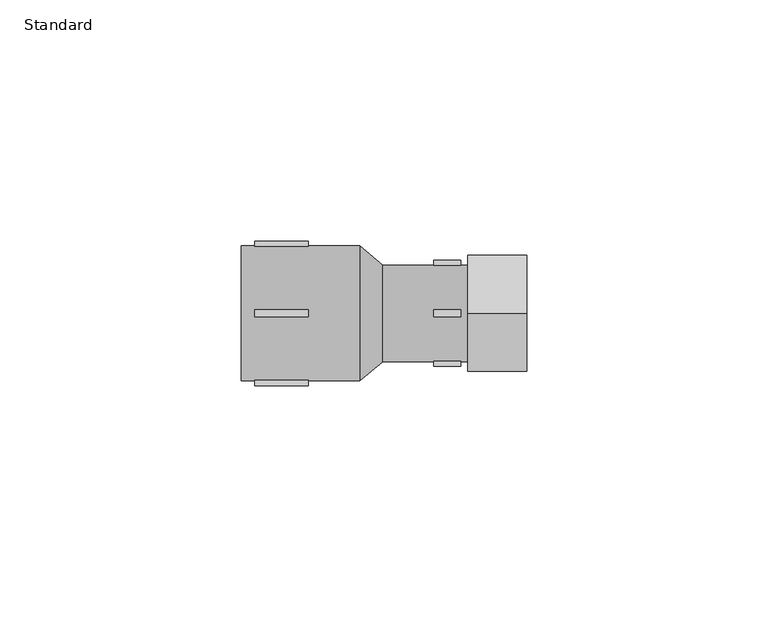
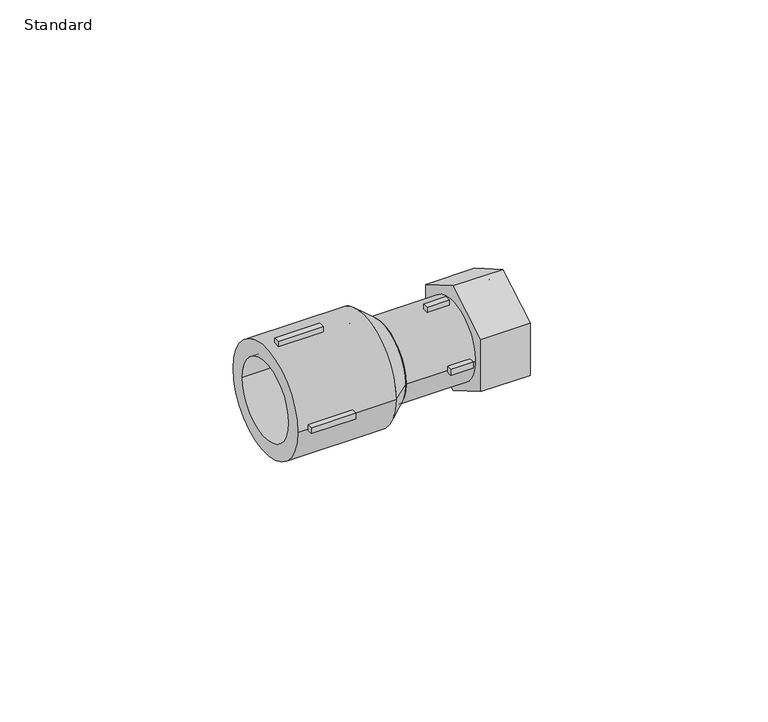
"""IFC4 building model written with IfcOpenShell, lengths in millimetres: pipe fitting geometry, EGB_VASEN_ PPR_Enlace tuerca loca : Standard."""

from ifc_helpers import new_model, si_unit, point, frame, origin, origin_2d, place, context, project, spatial, polyline, circle_curve, trimmed, segment, composite_curve, outline, extrude, source, transform, mapped, element, save
from ifc_brep_helpers import plane_surface, revolved_surface, advanced_brep


def standard_411258c7(model_context):
    return source(origin(), model_context, "Body", "SolidModel", [
        extrude(outline(polyline([(0.0, 13.8564065), (12.0, 6.9282032), (12.0, -6.9282032), (0.0, -13.8564065), (-12.0, -6.9282032), (-12.0, 6.9282032), (0.0, 13.8564065)]), holes=[composite_curve([segment(trimmed(circle_curve(origin_2d(), 9.525), [point((9.525, 0.0))], [point((-9.525, 0.0))], True, "CARTESIAN"), True, "CONTINUOUS"), segment(trimmed(circle_curve(origin_2d(), 9.525), [point((-9.525, 0.0))], [point((9.525, 0.0))], True, "CARTESIAN"), True, "CONTINUOUS")], self_intersect=False)]), frame((20.0, 0.0, 0.0), z_axis=(1.0, 0.0, 0.0), x_axis=(0.0, 1.0, 0.0)), (0.0, 0.0, 1.0), 12.3333333),
        extrude(outline(polyline([(13.0, -0.75), (13.0, 0.75), (18.6, 0.75), (18.6, -0.75), (13.0, -0.75)])), frame((0.0, 0.0, 9.0), z_axis=(0.0, 0.0, 1.0), x_axis=(1.0, 0.0, 0.0)), (0.0, 0.0, 1.0), 2.0),
        extrude(outline(polyline([(13.0, -0.75), (13.0, 0.75), (18.6, 0.75), (18.6, -0.75), (13.0, -0.75)])), frame((0.0, 0.0, -11.0), z_axis=(0.0, 0.0, 1.0), x_axis=(1.0, 0.0, 0.0)), (0.0, 0.0, 1.0), 2.0),
        extrude(outline(polyline([(13.0, 9.0), (13.0, 11.0), (18.6, 11.0), (18.6, 9.0), (13.0, 9.0)])), frame((0.0, 0.0, -0.75), z_axis=(0.0, 0.0, 1.0), x_axis=(1.0, 0.0, 0.0)), (0.0, 0.0, 1.0), 1.5),
        extrude(outline(polyline([(13.0, -11.0), (13.0, -9.0), (18.6, -9.0), (18.6, -11.0), (13.0, -11.0)])), frame((0.0, 0.0, -0.75), z_axis=(0.0, 0.0, 1.0), x_axis=(1.0, 0.0, 0.0)), (0.0, 0.0, 1.0), 1.5),
        extrude(outline(polyline([(-13.0, 0.75), (-13.0, -0.75), (-24.2, -0.75), (-24.2, 0.75), (-13.0, 0.75)])), frame((0.0, 0.0, 13.0), z_axis=(0.0, 0.0, 1.0), x_axis=(1.0, 0.0, 0.0)), (0.0, 0.0, 1.0), 2.0),
        extrude(outline(polyline([(-13.0, 0.75), (-13.0, -0.75), (-24.2, -0.75), (-24.2, 0.75), (-13.0, 0.75)])), frame((0.0, 0.0, -15.0), z_axis=(0.0, 0.0, 1.0), x_axis=(1.0, 0.0, 0.0)), (0.0, 0.0, 1.0), 2.0),
        extrude(outline(polyline([(-13.0, 15.0), (-13.0, 13.0), (-24.2, 13.0), (-24.2, 15.0), (-13.0, 15.0)])), frame((0.0, 0.0, -0.75), z_axis=(0.0, 0.0, 1.0), x_axis=(1.0, 0.0, 0.0)), (0.0, 0.0, 1.0), 1.5),
        extrude(outline(polyline([(-13.0, -13.0), (-13.0, -15.0), (-24.2, -15.0), (-24.2, -13.0), (-13.0, -13.0)])), frame((0.0, 0.0, -0.75), z_axis=(0.0, 0.0, 1.0), x_axis=(1.0, 0.0, 0.0)), (0.0, 0.0, 1.0), 1.5),
        extrude(outline(composite_curve([segment(trimmed(circle_curve(origin_2d(), 10.0), [point((-10.0, 0.0))], [point((10.0, 0.0))], False, "CARTESIAN"), True, "CONTINUOUS"), segment(trimmed(circle_curve(origin_2d(), 10.0), [point((10.0, 0.0))], [point((-10.0, 0.0))], False, "CARTESIAN"), True, "CONTINUOUS")], self_intersect=False), holes=[composite_curve([segment(trimmed(circle_curve(origin_2d(), 6.0), [point((-6.0, 0.0))], [point((6.0, 0.0))], True, "CARTESIAN"), True, "CONTINUOUS"), segment(trimmed(circle_curve(origin_2d(), 6.0), [point((6.0, 0.0))], [point((-6.0, 0.0))], True, "CARTESIAN"), True, "CONTINUOUS")], self_intersect=False)]), frame((2.4, 0.0, 0.0), z_axis=(1.0, 0.0, 0.0), x_axis=(0.0, 1.0, 0.0)), (0.0, 0.0, 1.0), 17.6),
        extrude(outline(composite_curve([segment(trimmed(circle_curve(origin_2d(), 14.0), [point((-14.0, 0.0))], [point((14.0, 0.0))], False, "CARTESIAN"), True, "CONTINUOUS"), segment(trimmed(circle_curve(origin_2d(), 14.0), [point((14.0, 0.0))], [point((-14.0, 0.0))], False, "CARTESIAN"), True, "CONTINUOUS")], self_intersect=False), holes=[composite_curve([segment(trimmed(circle_curve(origin_2d(), 10.0), [point((-10.0, 0.0))], [point((10.0, 0.0))], True, "CARTESIAN"), True, "CONTINUOUS"), segment(trimmed(circle_curve(origin_2d(), 10.0), [point((10.0, 0.0))], [point((-10.0, 0.0))], True, "CARTESIAN"), True, "CONTINUOUS")], self_intersect=False)]), frame((-27.0, 0.0, 0.0), z_axis=(1.0, 0.0, 0.0), x_axis=(0.0, 1.0, 0.0)), (0.0, 0.0, 1.0), 24.6),
        advanced_brep(
        [(2.4, -10.0, 0.0), (2.4, 10.0, 0.0), (-2.4, -14.0, 0.0), (-2.4, 14.0, 0.0)],
        [
            (0, 1, circle_curve(frame((2.4, 0.0, 0.0), z_axis=(1.0, 0.0, 0.0), x_axis=(0.0, -1.0, 0.0)), 10.0)),
            (1, 0, circle_curve(frame((2.4, 0.0, 0.0), z_axis=(1.0, 0.0, 0.0), x_axis=(0.0, 1.0, 0.0)), 10.0)),
            (2, 3, circle_curve(frame((-2.4, 0.0, 0.0), z_axis=(-1.0, 0.0, 0.0), x_axis=(0.0, 1.0, 0.0)), 14.0)),
            (3, 2, circle_curve(frame((-2.4, 0.0, 0.0), z_axis=(-1.0, 0.0, 0.0), x_axis=(0.0, -1.0, 0.0)), 14.0)),
            (3, 1),
            (0, 2),
        ],
        [
            plane_surface(frame((2.4, 0.0, 0.0), z_axis=(1.0, 0.0, 0.0), x_axis=(0.0, 0.0, -1.0))),
            plane_surface(frame((-2.4, 0.0, 0.0), z_axis=(-1.0, 0.0, 0.0), x_axis=(0.0, 0.0, -1.0))),
            revolved_surface(polyline([(2.4000000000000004, -10.0, 0.0), (-2.4000000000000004, -14.0, 0.0)]), (14.4, 0.0, 0.0), (-1.0, 0.0, 0.0)),
            revolved_surface(polyline([(2.4000000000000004, 10.0, 0.0), (-2.4000000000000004, 14.0, 0.0)]), (14.4, 0.0, 0.0), (-1.0, 0.0, 0.0)),
        ],
        [
            (0, [[1, 2]]),
            (1, [[3, 4]]),
            (2, [[-4, 5, -1, 6]]),
            (3, [[-3, -6, -2, -5]]),
        ],
    ),
    ])


if __name__ == "__main__":
    model = new_model("IFC4")
    model_context = context("Model", 3, world=origin())
    ifc_project = project(units=[si_unit("LENGTHUNIT", "METRE", prefix="MILLI")], contexts=[model_context])
    site = spatial("IfcSite", under=ifc_project)
    building = spatial("IfcBuilding", under=site)
    placement = place(None, origin())
    standard_shape = standard_411258c7(model_context)
    element("IfcPipeFitting", 1, ObjectType="EGB_VASEN_ PPR_Enlace tuerca loca : Standard", at=placement, inside=building, context=model_context, shape_type="MappedRepresentation", body=[
        mapped(standard_shape, transform((0.0, 0.0, 0.0), x_axis=(1.0, 0.0, 0.0), y_axis=(0.0, 1.0, 0.0), z_axis=(0.0, 0.0, 1.0))),
    ])
    save(model, "model.ifc")
